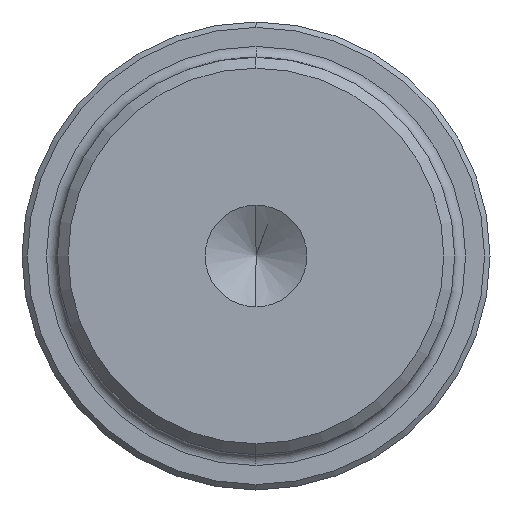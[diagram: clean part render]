
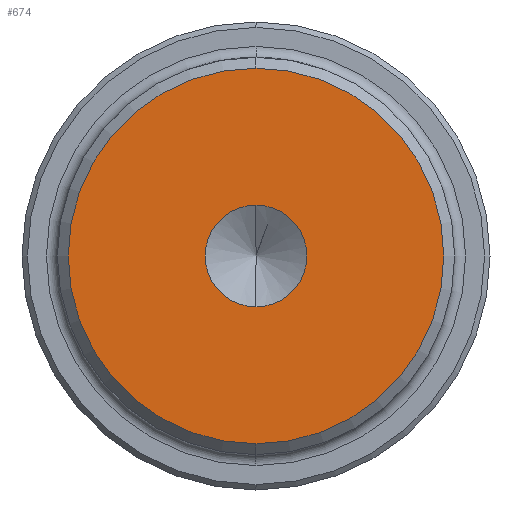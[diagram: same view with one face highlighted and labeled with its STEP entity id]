
A CAD part, left-side view. The second image highlights one B-rep face of the part: STEP entity #674.
In plain terms, the highlighted planar face has unit normal (-1, 0, 0).
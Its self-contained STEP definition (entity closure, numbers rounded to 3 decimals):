
#53 = CARTESIAN_POINT ( 'NONE',  ( -80.75, 0., 0. ) ) ;
#62 = DIRECTION ( 'NONE',  ( -1., 0., 0. ) ) ;
#66 = DIRECTION ( 'NONE',  ( 0., 0., 1. ) ) ;
#96 = PLANE ( 'NONE',  #711 ) ;
#143 = CARTESIAN_POINT ( 'NONE',  ( -80.75, 0., 0. ) ) ;
#192 = DIRECTION ( 'NONE',  ( 0., 0., -1. ) ) ;
#224 = DIRECTION ( 'NONE',  ( 1., 0., 0. ) ) ;
#395 = CARTESIAN_POINT ( 'NONE',  ( -80.75, 0., 0. ) ) ;
#396 = CARTESIAN_POINT ( 'NONE',  ( -80.75, 0., 0. ) ) ;
#397 = DIRECTION ( 'NONE',  ( 0., 0., 1. ) ) ;
#398 = DIRECTION ( 'NONE',  ( 0., 0., 1. ) ) ;
#400 = DIRECTION ( 'NONE',  ( -1., 0., 0. ) ) ;
#401 = DIRECTION ( 'NONE',  ( -1., 0., 0. ) ) ;
#419 = CARTESIAN_POINT ( 'NONE',  ( -80.75, 0., 17.255 ) ) ;
#420 = CARTESIAN_POINT ( 'NONE',  ( -80.75, 0., 4.675 ) ) ;
#452 = CARTESIAN_POINT ( 'NONE',  ( -80.75, 0., -17.255 ) ) ;
#459 = CARTESIAN_POINT ( 'NONE',  ( -80.75, 0., -4.675 ) ) ;
#550 = VERTEX_POINT ( 'NONE', #419 ) ;
#555 = VERTEX_POINT ( 'NONE', #420 ) ;
#585 = EDGE_LOOP ( 'NONE', ( #1057, #1063 ) ) ;
#595 = EDGE_LOOP ( 'NONE', ( #1068, #1094 ) ) ;
#617 = VERTEX_POINT ( 'NONE', #452 ) ;
#629 = VERTEX_POINT ( 'NONE', #459 ) ;
#674 = ADVANCED_FACE ( 'NONE', ( #1221, #1231 ), #96, .F. ) ;
#709 = AXIS2_PLACEMENT_3D ( 'NONE', #143, #62, #66 ) ;
#711 = AXIS2_PLACEMENT_3D ( 'NONE', #53, #224, #192 ) ;
#726 = AXIS2_PLACEMENT_3D ( 'NONE', #825, #826, #799 ) ;
#738 = AXIS2_PLACEMENT_3D ( 'NONE', #396, #401, #398 ) ;
#739 = AXIS2_PLACEMENT_3D ( 'NONE', #395, #400, #397 ) ;
#799 = DIRECTION ( 'NONE',  ( 0., 0., 1. ) ) ;
#825 = CARTESIAN_POINT ( 'NONE',  ( -80.75, 0., 0. ) ) ;
#826 = DIRECTION ( 'NONE',  ( -1., 0., 0. ) ) ;
#882 = EDGE_CURVE ( 'NONE', #629, #555, #1236, .T. ) ;
#908 = EDGE_CURVE ( 'NONE', #550, #617, #1265, .T. ) ;
#938 = EDGE_CURVE ( 'NONE', #617, #550, #1307, .T. ) ;
#939 = EDGE_CURVE ( 'NONE', #555, #629, #1308, .T. ) ;
#1057 = ORIENTED_EDGE ( 'NONE', *, *, #939, .F. ) ;
#1063 = ORIENTED_EDGE ( 'NONE', *, *, #882, .F. ) ;
#1068 = ORIENTED_EDGE ( 'NONE', *, *, #938, .T. ) ;
#1094 = ORIENTED_EDGE ( 'NONE', *, *, #908, .T. ) ;
#1221 = FACE_BOUND ( 'NONE', #585, .T. ) ;
#1231 = FACE_OUTER_BOUND ( 'NONE', #595, .T. ) ;
#1236 = CIRCLE ( 'NONE', #709, 4.675 ) ;
#1265 = CIRCLE ( 'NONE', #726, 17.255 ) ;
#1307 = CIRCLE ( 'NONE', #738, 17.255 ) ;
#1308 = CIRCLE ( 'NONE', #739, 4.675 ) ;
